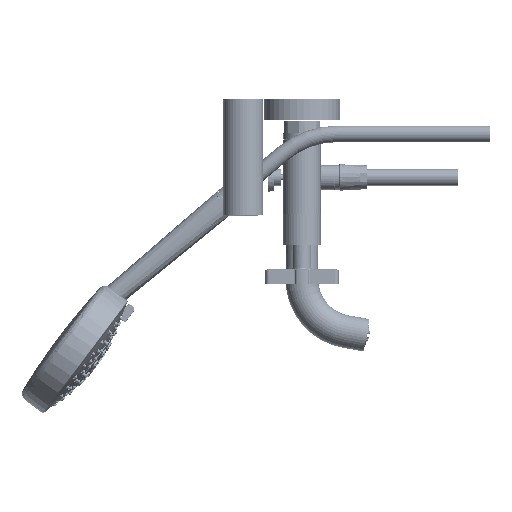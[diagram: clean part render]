
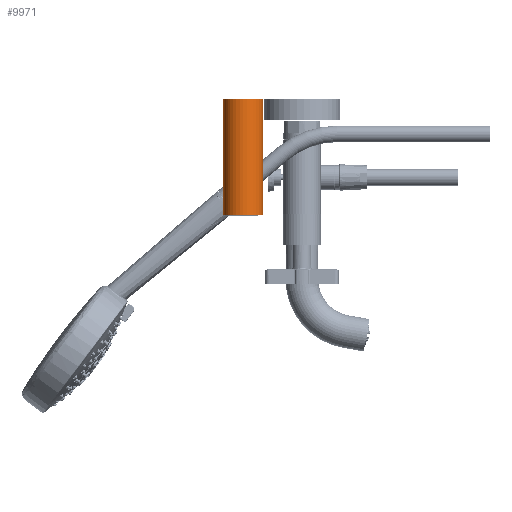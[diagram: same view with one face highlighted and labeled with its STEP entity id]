
A CAD part, left-side view. The second image highlights one B-rep face of the part: STEP entity #9971.
In plain terms, the highlighted cylindrical face has radius 17 mm (diameter 34 mm), a partial arc.
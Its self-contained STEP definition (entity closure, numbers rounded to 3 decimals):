
#8081 = AXIS2_PLACEMENT_3D ( 'NONE', #256196, #127948, #277741 ) ;
#9971 = ADVANCED_FACE ( 'NONE', ( #198511 ), #27515, .T. ) ;
#27092 = DIRECTION ( 'NONE',  ( 0., 0., -1. ) ) ;
#27515 = CYLINDRICAL_SURFACE ( 'NONE', #164711, 17. ) ;
#41063 = ORIENTED_EDGE ( 'NONE', *, *, #276915, .T. ) ;
#41812 = CARTESIAN_POINT ( 'NONE',  ( 0., 0., 17. ) ) ;
#47293 = CARTESIAN_POINT ( 'NONE',  ( 0., 0., 0. ) ) ;
#60036 = EDGE_CURVE ( 'NONE', #232118, #108504, #259387, .T. ) ;
#60994 = VECTOR ( 'NONE', #104259, 1000. ) ;
#68796 = DIRECTION ( 'NONE',  ( 0., 0., -1. ) ) ;
#79381 = VERTEX_POINT ( 'NONE', #212143 ) ;
#82706 = CARTESIAN_POINT ( 'NONE',  ( 0., 0., -17. ) ) ;
#90909 = CARTESIAN_POINT ( 'NONE',  ( 0., 99.276, 0. ) ) ;
#95738 = AXIS2_PLACEMENT_3D ( 'NONE', #47293, #197136, #68796 ) ;
#104259 = DIRECTION ( 'NONE',  ( 0., -1., 0. ) ) ;
#108504 = VERTEX_POINT ( 'NONE', #143111 ) ;
#112518 = DIRECTION ( 'NONE',  ( 0., 0., -1. ) ) ;
#115814 = LINE ( 'NONE', #173453, #222972 ) ;
#124759 = LINE ( 'NONE', #82706, #60994 ) ;
#127948 = DIRECTION ( 'NONE',  ( 0., -1., 0. ) ) ;
#129397 = CIRCLE ( 'NONE', #95738, 17. ) ;
#131281 = EDGE_CURVE ( 'NONE', #272517, #79381, #124759, .T. ) ;
#133759 = VERTEX_POINT ( 'NONE', #41812 ) ;
#135480 = CIRCLE ( 'NONE', #180995, 17. ) ;
#142990 = CARTESIAN_POINT ( 'NONE',  ( 0., 99.276, -17. ) ) ;
#143111 = CARTESIAN_POINT ( 'NONE',  ( -17., 99.276, 0. ) ) ;
#164711 = AXIS2_PLACEMENT_3D ( 'NONE', #220081, #263168, #27092 ) ;
#173419 = ORIENTED_EDGE ( 'NONE', *, *, #131281, .T. ) ;
#173453 = CARTESIAN_POINT ( 'NONE',  ( 0., 0., 17. ) ) ;
#173859 = EDGE_LOOP ( 'NONE', ( #233078, #215703, #41063, #173419, #206962 ) ) ;
#180995 = AXIS2_PLACEMENT_3D ( 'NONE', #90909, #240790, #112518 ) ;
#197136 = DIRECTION ( 'NONE',  ( 0., -1., 0. ) ) ;
#198511 = FACE_OUTER_BOUND ( 'NONE', #173859, .T. ) ;
#206962 = ORIENTED_EDGE ( 'NONE', *, *, #231801, .F. ) ;
#212143 = CARTESIAN_POINT ( 'NONE',  ( 0., 0., -17. ) ) ;
#215573 = DIRECTION ( 'NONE',  ( 0., -1., 0. ) ) ;
#215703 = ORIENTED_EDGE ( 'NONE', *, *, #60036, .T. ) ;
#220081 = CARTESIAN_POINT ( 'NONE',  ( 0., 0., 0. ) ) ;
#222972 = VECTOR ( 'NONE', #215573, 1000. ) ;
#231801 = EDGE_CURVE ( 'NONE', #133759, #79381, #129397, .T. ) ;
#232118 = VERTEX_POINT ( 'NONE', #239592 ) ;
#233078 = ORIENTED_EDGE ( 'NONE', *, *, #275371, .F. ) ;
#239592 = CARTESIAN_POINT ( 'NONE',  ( 0., 99.276, 17. ) ) ;
#240790 = DIRECTION ( 'NONE',  ( 0., -1., 0. ) ) ;
#256196 = CARTESIAN_POINT ( 'NONE',  ( 0., 99.276, 0. ) ) ;
#259387 = CIRCLE ( 'NONE', #8081, 17. ) ;
#263168 = DIRECTION ( 'NONE',  ( 0., -1., 0. ) ) ;
#272517 = VERTEX_POINT ( 'NONE', #142990 ) ;
#275371 = EDGE_CURVE ( 'NONE', #232118, #133759, #115814, .T. ) ;
#276915 = EDGE_CURVE ( 'NONE', #108504, #272517, #135480, .T. ) ;
#277741 = DIRECTION ( 'NONE',  ( 0., 0., -1. ) ) ;
